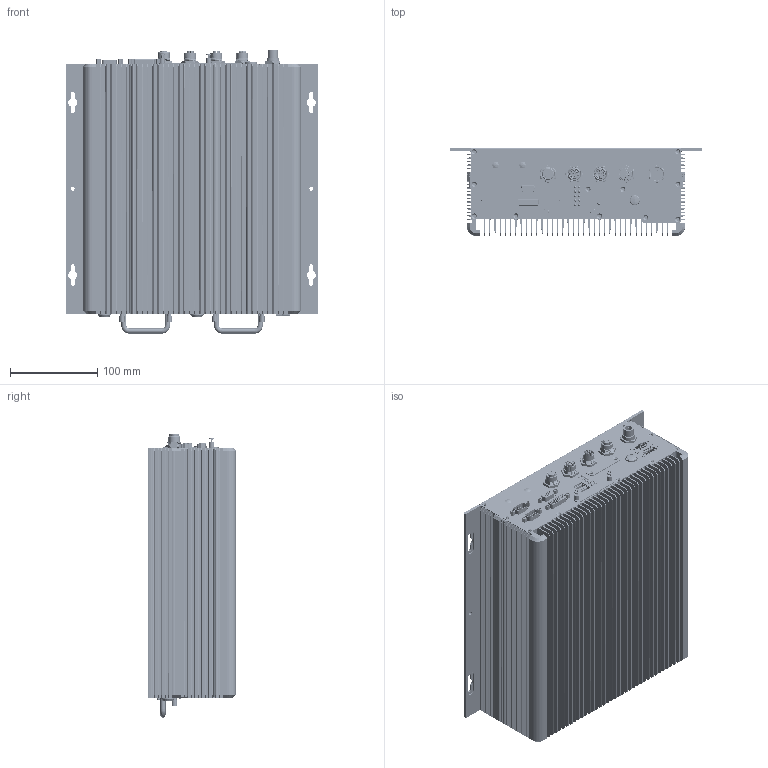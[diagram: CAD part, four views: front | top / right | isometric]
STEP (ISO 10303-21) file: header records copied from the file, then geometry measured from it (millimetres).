
FILE_DESCRIPTION((''),'2;1');
FILE_NAME('00-V2616A_SYSTEM-01','2014-04-02T',('Laban_Liu'),(''),'PRO/ENGINEER BY PARAMETRIC TECHNOLOGY CORPORATION, 2013230','PRO/ENGINEER BY PARAMETRIC TECHNOLOGY CORPORATION, 2013230','');
FILE_SCHEMA(('CONFIG_CONTROL_DESIGN'));
Products named in the file (1): 00-V2616A_SYSTEM-01
Bounding box: 290 x 100.7 x 325.2 mm (x, y, z)
Volume: 1798534.6 mm3; surface area: 1526466.4 mm2
Topology: 31 solids, 127 shells, 24122 faces, 67135 edges, 43727 vertices
Faces by surface type: plane 14868, cylinder 5728, bspline 1541, cone 896, extrusion 718, torus 305, sphere 58, revolution 8
Entity records: 957086 total; most frequent: CARTESIAN_POINT 350325, ORIENTED_EDGE 133848, DIRECTION 112956, EDGE_CURVE 67014, VECTOR 46460, LINE 45742, VERTEX_POINT 43727, AXIS2_PLACEMENT_3D 33244
